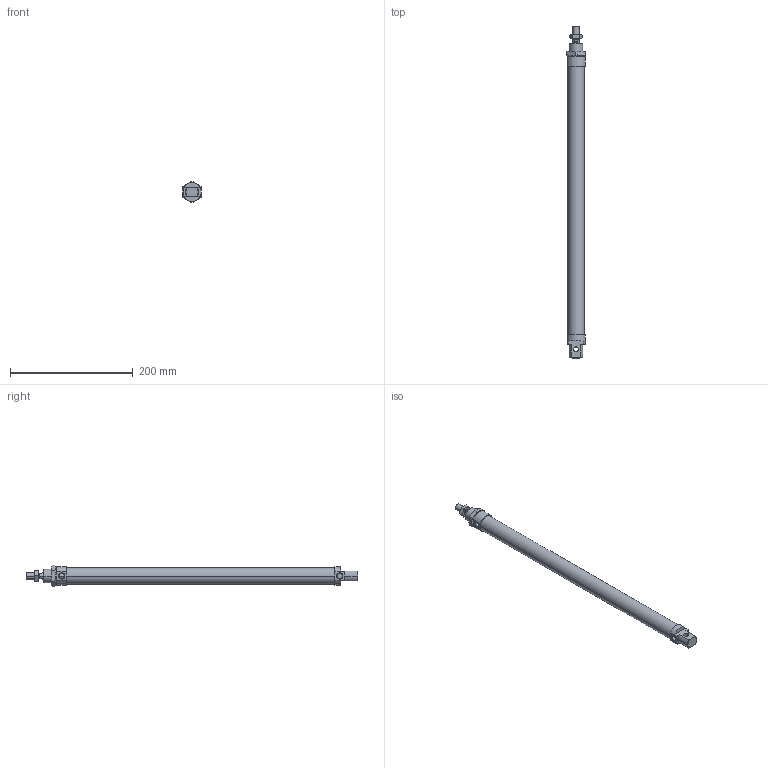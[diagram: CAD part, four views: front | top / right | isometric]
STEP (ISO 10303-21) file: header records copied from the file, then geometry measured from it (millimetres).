
FILE_DESCRIPTION((''),'2;1');
FILE_NAME('I:\DOC-EDP\Lib-3d\1200\CILINDRI\1280\1280_25_0400.stp','2003-04-07T18:01:18',('maffial1'),(''),'Autodesk Inventor (R) 6.0','Autodesk Inventor (R) 6.0','');
FILE_SCHEMA(('AUTOMOTIVE_DESIGN { 1 0 10303 214 1 1 1 1 }'));
Length unit declared in the file: millimetre
Products named in the file (5): 1280_25_0400; S1280_25_400; 1200_25_05; 1200_25_06; C1280_25_400
Assembly tree (4 placements, depth 2):
  1280_25_0400
    S1280_25_400
    1200_25_05
    1200_25_06
    C1280_25_400
Bounding box: 30 x 540 x 34.64 mm (x, y, z)
Volume: 280705.5 mm3; surface area: 75859.6 mm2
Topology: 4 solids, 4 shells, 124 faces, 281 edges, 170 vertices
Faces by surface type: plane 41, cone 40, cylinder 22, bspline 21
Entity records: 3808 total; most frequent: CARTESIAN_POINT 1031, DIRECTION 573, ORIENTED_EDGE 562, EDGE_CURVE 281, AXIS2_PLACEMENT_3D 236, VERTEX_POINT 170, EDGE_LOOP 137, FACE_OUTER_BOUND 124
